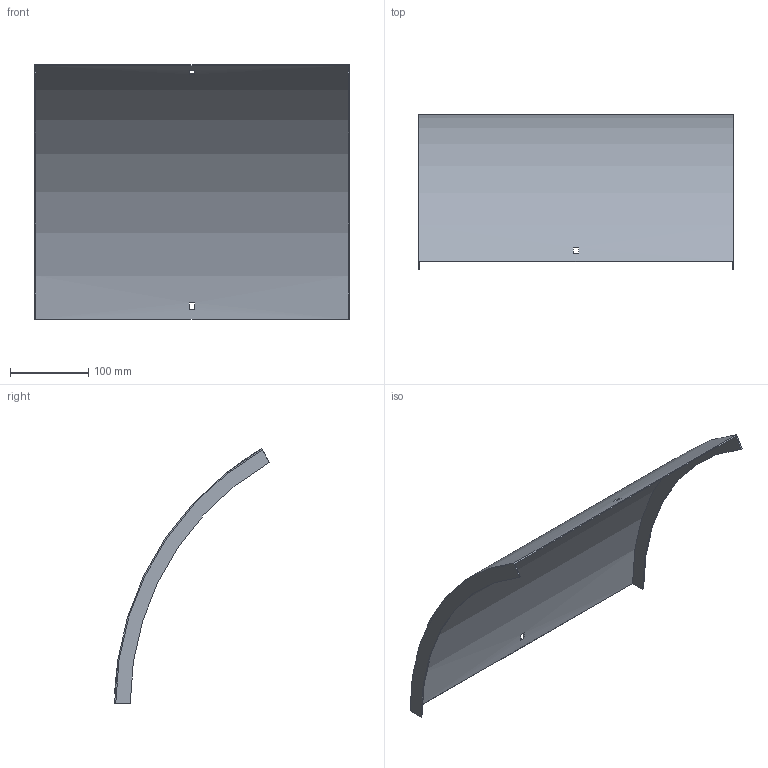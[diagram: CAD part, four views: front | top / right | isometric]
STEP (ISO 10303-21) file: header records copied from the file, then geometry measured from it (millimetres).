
FILE_DESCRIPTION (( 'STEP AP214' ), '1' );
FILE_NAME ('B2_41N3C400.step', '2025-02-21T10:41:09', ( '' ), ( '' ), 'SwSTEP 2.0', 'SolidWorks 2023', '' );
FILE_SCHEMA (( 'AUTOMOTIVE_DESIGN' ));
Length unit declared in the file: millimetre
Products named in the file (1): B2_41N3C400
Bounding box: 403 x 198.25 x 326.06 mm (x, y, z)
Volume: 258942.9 mm3; surface area: 347792.6 mm2
Topology: 1 solids, 1 shells, 18 faces, 48 edges, 32 vertices
Faces by surface type: plane 14, cylinder 4
Entity records: 599 total; most frequent: DIRECTION 102, CARTESIAN_POINT 99, ORIENTED_EDGE 96, EDGE_CURVE 48, AXIS2_PLACEMENT_3D 35, LINE 32, VECTOR 32, VERTEX_POINT 32
